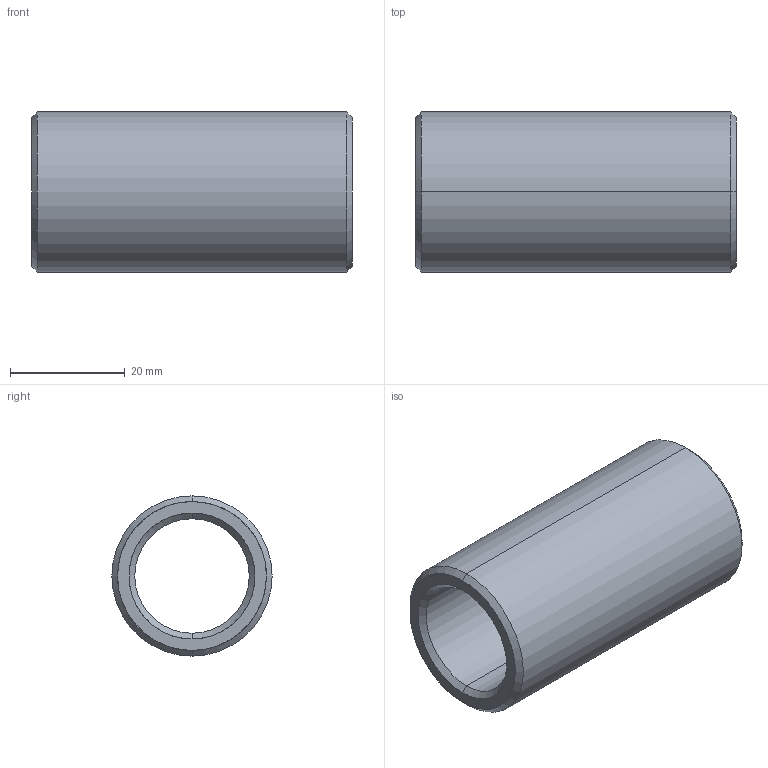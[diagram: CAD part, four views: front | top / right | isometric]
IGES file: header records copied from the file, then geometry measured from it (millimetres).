
Start section: START RECORD GO HERE.
Global section: file name: 352-20X56.igs; native system: DASSAULT SYSTEMES CATIA V5 R20 - www.3ds.com; preprocessor: CATIA Version 5 Release 20 ; author: Utente; organization: NB04-ASUS; date: 20210412.172128; units: millimetre
Bounding box: 56 x 28 x 28 mm (x, y, z)
Surface area: 8880.1 mm2 (no closed solid volume)
Topology: 0 solids, 0 shells, 14 faces, 88 edges, 88 vertices
Faces by surface type: revolution 12, plane 2
